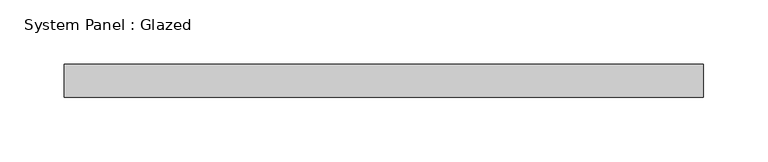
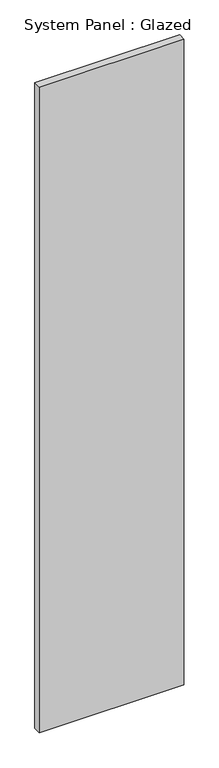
"""IFC4 building model written with IfcOpenShell, lengths in millimetres: plate geometry, System Panel : Glazed."""

from ifc_helpers import new_model, si_unit, origin, origin_with_axes, place, context, project, spatial, polyline, outline, extrude, source, transform, mapped, element, save


def system_panel_glazed_61f50c52(model_context):
    return source(origin(), model_context, "Body", "SweptSolid", [
        extrude(outline(polyline([(248.3226271, 19.05), (-248.3226271, 19.05), (-248.3226271, 44.45), (248.3226271, 44.45), (248.3226271, 19.05)])), origin_with_axes(), (0.0, 0.0, 1.0), 2343.15),
    ])


if __name__ == "__main__":
    model = new_model("IFC4")
    model_context = context("Model", 3, world=origin())
    ifc_project = project(units=[si_unit("LENGTHUNIT", "METRE", prefix="MILLI")], contexts=[model_context])
    site = spatial("IfcSite", under=ifc_project)
    building = spatial("IfcBuilding", under=site)
    placement = place(None, origin())
    system_panel_glazed_shape = system_panel_glazed_61f50c52(model_context)
    element("IfcPlate", 1, ObjectType="System Panel : Glazed", at=placement, inside=building, context=model_context, shape_type="MappedRepresentation", body=[
        mapped(system_panel_glazed_shape, transform((0.0, 0.0, 0.0), x_axis=(1.0, 0.0, 0.0), y_axis=(0.0, 1.0, 0.0), z_axis=(0.0, 0.0, 1.0))),
    ])
    save(model, "model.ifc")
